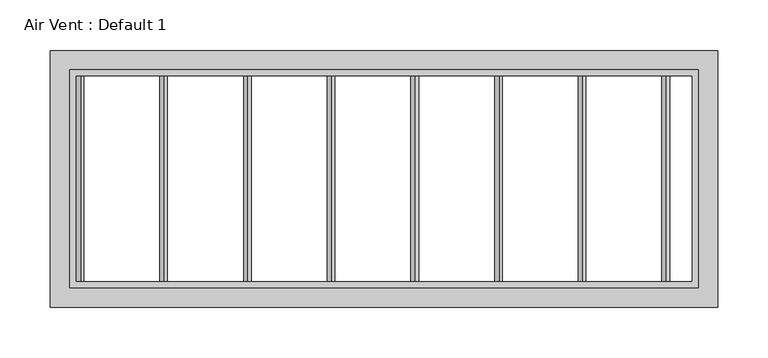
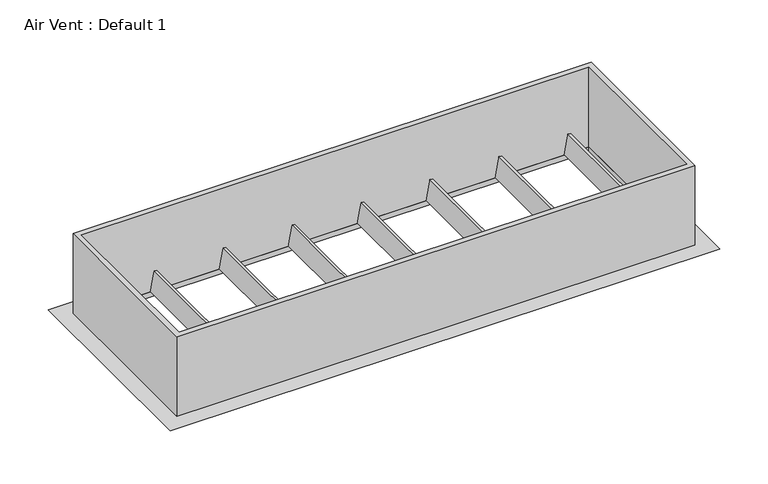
"""IFC4 building model written with IfcOpenShell, lengths in millimetres: proxy geometry, Air Vent : Default 1."""

from ifc_helpers import new_model, si_unit, frame, origin, place, context, project, spatial, polyline, outline, extrude, faceted_brep, source, transform, mapped, element, save


def air_vent_default_1_ccd20c14(model_context):
    return source(origin(), model_context, "Body", "SolidModel", [
        extrude(outline(polyline([(0.0, -3.175), (0.0, 0.0), (203.2, 0.0), (203.2, -3.175), (0.0, -3.175)])), frame((-221.9418006, -101.6, 2438.951333), z_axis=(0.1736481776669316, 0.0, 0.9848077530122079), x_axis=(0.0, 1.0, 0.0)), (0.0, 0.0, 1.0), 25.4),
        extrude(outline(polyline([(0.0, -3.175), (0.0, 0.0), (203.2, 0.0), (203.2, -3.175), (0.0, -3.175)])), frame((-139.0836012, -101.6, 2438.951333), z_axis=(0.1736481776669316, 0.0, 0.9848077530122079), x_axis=(0.0, 1.0, 0.0)), (0.0, 0.0, 1.0), 25.4),
        extrude(outline(polyline([(0.0, -3.175), (0.0, 0.0), (203.2, 0.0), (203.2, -3.175), (0.0, -3.175)])), frame((-56.2254018, -101.6, 2438.951333), z_axis=(0.1736481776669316, 0.0, 0.9848077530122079), x_axis=(0.0, 1.0, 0.0)), (0.0, 0.0, 1.0), 25.4),
        extrude(outline(polyline([(0.0, -3.1750001), (0.0, 0.0), (203.2, 0.0), (203.2, -3.1750001), (0.0, -3.1750001)])), frame((26.6327975, -101.6, 2438.951333), z_axis=(0.1736481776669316, 0.0, 0.9848077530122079), x_axis=(0.0, 1.0, 0.0)), (0.0, 0.0, 1.0), 25.4),
        extrude(outline(polyline([(0.0, -3.175), (0.0, 0.0), (203.2, 0.0), (203.2, -3.175), (0.0, -3.175)])), frame((109.4909969, -101.6, 2438.951333), z_axis=(0.1736481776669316, 0.0, 0.9848077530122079), x_axis=(0.0, 1.0, 0.0)), (0.0, 0.0, 1.0), 25.4),
        extrude(outline(polyline([(0.0, -3.175), (0.0, 0.0), (203.2, 0.0), (203.2, -3.175), (0.0, -3.175)])), frame((192.3491963, -101.6, 2438.951333), z_axis=(0.1736481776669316, 0.0, 0.9848077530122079), x_axis=(0.0, 1.0, 0.0)), (0.0, 0.0, 1.0), 25.4),
        extrude(outline(polyline([(0.0, -3.175), (0.0, 0.0), (203.2, 0.0), (203.2, -3.175), (0.0, -3.175)])), frame((275.2073957, -101.6, 2438.951333), z_axis=(0.1736481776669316, 0.0, 0.9848077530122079), x_axis=(0.0, 1.0, 0.0)), (0.0, 0.0, 1.0), 25.4),
        extrude(outline(polyline([(0.0, -3.175), (0.0, 0.0), (203.2, 0.0), (203.2, -3.175), (0.0, -3.175)])), frame((-304.8, -101.6, 2438.951333), z_axis=(0.1736481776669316, 0.0, 0.9848077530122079), x_axis=(0.0, 1.0, 0.0)), (0.0, 0.0, 1.0), 25.4),
        faceted_brep([(304.8, 101.6, 2438.4), (304.8, 101.6, 2432.05), (304.8, -101.6, 2432.05), (304.8, -101.6, 2438.4), (-304.8, -101.6, 2432.05), (-304.8, -101.6, 2438.4), (-304.8, 101.6, 2432.05), (-304.8, 101.6, 2438.4), (317.5, -114.3, 2432.05), (-317.5, -114.3, 2432.05), (-317.5, 114.3, 2432.05), (317.5, 114.3, 2432.05), (330.2, 127.0, 2438.4), (-330.2, 127.0, 2438.4), (-330.2, -127.0, 2438.4), (330.2, -127.0, 2438.4)], [[[0, 1, 2, 3]], [[3, 2, 4, 5]], [[5, 4, 6, 7]], [[8, 9, 10, 11], [1, 6, 4, 2]], [[12, 13, 14, 15], [3, 5, 7, 0]], [[7, 6, 1, 0]], [[11, 12, 15, 8]], [[8, 15, 14, 9]], [[9, 14, 13, 10]], [[10, 13, 12, 11]]]),
        extrude(outline(polyline([(311.15, 107.95), (311.15, -107.95), (-311.15, -107.95), (-311.15, 107.95), (311.15, 107.95)]), holes=[polyline([(304.8, 101.6), (-304.8, 101.6), (-304.8, -101.6), (304.8, -101.6), (304.8, 101.6)])]), frame((0.0, 0.0, 2438.4), z_axis=(0.0, 0.0, 1.0), x_axis=(1.0, 0.0, 0.0)), (0.0, 0.0, 1.0), 101.6),
    ])


if __name__ == "__main__":
    model = new_model("IFC4")
    model_context = context("Model", 3, world=origin())
    ifc_project = project(units=[si_unit("LENGTHUNIT", "METRE", prefix="MILLI")], contexts=[model_context])
    site = spatial("IfcSite", under=ifc_project)
    building = spatial("IfcBuilding", under=site)
    placement = place(None, origin())
    air_vent_default_1_shape = air_vent_default_1_ccd20c14(model_context)
    element("IfcBuildingElementProxy", 1, Name="Air Vent : Default 1", ObjectType="Air Vent : Default 1", at=placement, inside=building, context=model_context, shape_type="MappedRepresentation", body=[
        mapped(air_vent_default_1_shape, transform((0.0, 0.0, 0.0), x_axis=(1.0, 0.0, 0.0), y_axis=(0.0, 1.0, 0.0), z_axis=(0.0, 0.0, 1.0))),
    ])
    save(model, "model.ifc")
